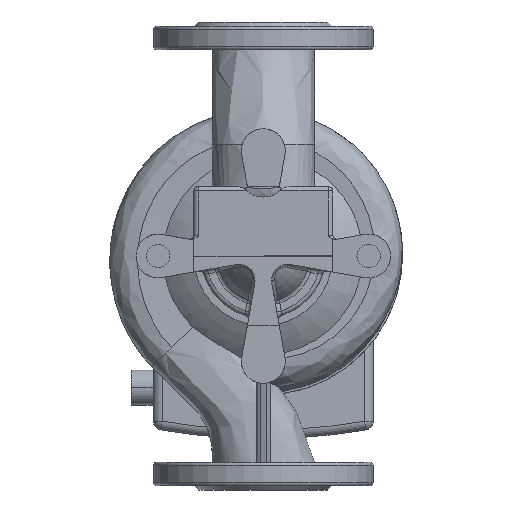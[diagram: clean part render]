
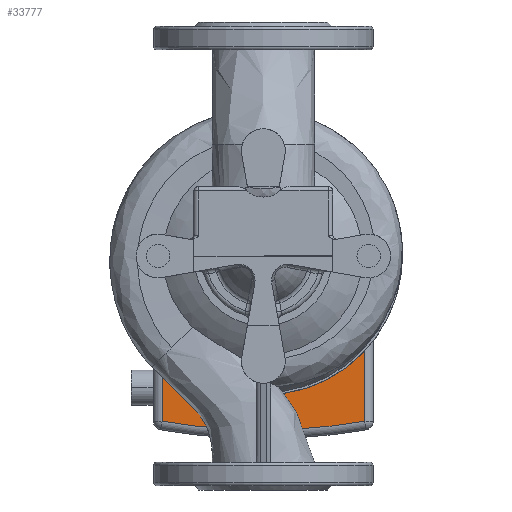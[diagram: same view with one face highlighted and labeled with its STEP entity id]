
A CAD part, front view. The second image highlights one B-rep face of the part: STEP entity #33777.
In plain terms, the highlighted planar face has unit normal (0, -1, 0).
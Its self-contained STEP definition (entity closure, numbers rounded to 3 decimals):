
#361 = CARTESIAN_POINT ( 'NONE',  ( 85.5, 214.5, -52. ) ) ;
#620 = ORIENTED_EDGE ( 'NONE', *, *, #27798, .T. ) ;
#782 = LINE ( 'NONE', #15295, #44662 ) ;
#816 = EDGE_LOOP ( 'NONE', ( #24184, #955, #620, #11289, #27377, #30276, #18420, #9835, #43520, #25439, #3528 ) ) ;
#955 = ORIENTED_EDGE ( 'NONE', *, *, #25124, .T. ) ;
#1324 = VECTOR ( 'NONE', #31143, 1000. ) ;
#1714 = CIRCLE ( 'NONE', #42700, 400. ) ;
#2285 = PLANE ( 'NONE',  #24954 ) ;
#2598 = VERTEX_POINT ( 'NONE', #23967 ) ;
#2620 = LINE ( 'NONE', #28291, #33976 ) ;
#3074 = VERTEX_POINT ( 'NONE', #8772 ) ;
#3528 = ORIENTED_EDGE ( 'NONE', *, *, #22225, .F. ) ;
#3677 = CARTESIAN_POINT ( 'NONE',  ( -77.504, 214.5, -50. ) ) ;
#4105 = CARTESIAN_POINT ( 'NONE',  ( 77.504, 214.5, -50. ) ) ;
#4153 = DIRECTION ( 'NONE',  ( 0., 0., 1. ) ) ;
#4270 = EDGE_CURVE ( 'NONE', #3074, #14382, #1714, .T. ) ;
#4921 = LINE ( 'NONE', #26960, #41597 ) ;
#4974 = LINE ( 'NONE', #44951, #1324 ) ;
#5158 = DIRECTION ( 'NONE',  ( 0., 1., 0. ) ) ;
#6393 = AXIS2_PLACEMENT_3D ( 'NONE', #12187, #5158, #41271 ) ;
#7096 = VERTEX_POINT ( 'NONE', #34162 ) ;
#7200 = CIRCLE ( 'NONE', #24212, 72.5 ) ;
#7623 = LINE ( 'NONE', #361, #34014 ) ;
#8772 = CARTESIAN_POINT ( 'NONE',  ( -69.25, 214.5, -112.96 ) ) ;
#8952 = DIRECTION ( 'NONE',  ( 0., 0., 1. ) ) ;
#9315 = CARTESIAN_POINT ( 'NONE',  ( -41.5, 214.5, -85.5 ) ) ;
#9835 = ORIENTED_EDGE ( 'NONE', *, *, #4270, .T. ) ;
#10563 = DIRECTION ( 'NONE',  ( 0., -1., 0. ) ) ;
#11289 = ORIENTED_EDGE ( 'NONE', *, *, #17924, .T. ) ;
#12187 = CARTESIAN_POINT ( 'NONE',  ( 85.5, 214.5, 0. ) ) ;
#12586 = DIRECTION ( 'NONE',  ( 0., -1., 0. ) ) ;
#12700 = DIRECTION ( 'NONE',  ( 0., -1., 0. ) ) ;
#14382 = VERTEX_POINT ( 'NONE', #19389 ) ;
#15295 = CARTESIAN_POINT ( 'NONE',  ( 85.5, 214.5, -50. ) ) ;
#15569 = VERTEX_POINT ( 'NONE', #37808 ) ;
#16874 = EDGE_CURVE ( 'NONE', #28082, #7096, #39981, .T. ) ;
#17359 = VERTEX_POINT ( 'NONE', #46214 ) ;
#17924 = EDGE_CURVE ( 'NONE', #17359, #26553, #782, .T. ) ;
#18420 = ORIENTED_EDGE ( 'NONE', *, *, #43855, .T. ) ;
#19178 = EDGE_CURVE ( 'NONE', #2598, #26553, #45829, .T. ) ;
#19389 = CARTESIAN_POINT ( 'NONE',  ( 0., 214.5, -119. ) ) ;
#19596 = VECTOR ( 'NONE', #23615, 1000. ) ;
#20236 = CARTESIAN_POINT ( 'NONE',  ( 69.25, 214.5, -112.96 ) ) ;
#20545 = CARTESIAN_POINT ( 'NONE',  ( -69.25, 214.5, -52. ) ) ;
#21639 = EDGE_CURVE ( 'NONE', #27244, #22788, #2620, .T. ) ;
#22225 = EDGE_CURVE ( 'NONE', #7096, #22788, #7623, .T. ) ;
#22788 = VERTEX_POINT ( 'NONE', #46879 ) ;
#23511 = DIRECTION ( 'NONE',  ( -1., 0., 0. ) ) ;
#23615 = DIRECTION ( 'NONE',  ( -1., 0., 0. ) ) ;
#23967 = CARTESIAN_POINT ( 'NONE',  ( -76.877, 214.5, -52. ) ) ;
#24184 = ORIENTED_EDGE ( 'NONE', *, *, #16874, .F. ) ;
#24212 = AXIS2_PLACEMENT_3D ( 'NONE', #42161, #46031, #23511 ) ;
#24954 = AXIS2_PLACEMENT_3D ( 'NONE', #9315, #12700, #28199 ) ;
#25124 = EDGE_CURVE ( 'NONE', #28082, #15569, #27503, .T. ) ;
#25330 = CARTESIAN_POINT ( 'NONE',  ( 0., 214.5, 281. ) ) ;
#25439 = ORIENTED_EDGE ( 'NONE', *, *, #21639, .T. ) ;
#26553 = VERTEX_POINT ( 'NONE', #3677 ) ;
#26960 = CARTESIAN_POINT ( 'NONE',  ( -69.25, 214.5, -85.5 ) ) ;
#27145 = AXIS2_PLACEMENT_3D ( 'NONE', #45765, #12586, #8952 ) ;
#27244 = VERTEX_POINT ( 'NONE', #20236 ) ;
#27377 = ORIENTED_EDGE ( 'NONE', *, *, #19178, .F. ) ;
#27503 = LINE ( 'NONE', #34761, #19596 ) ;
#27798 = EDGE_CURVE ( 'NONE', #15569, #17359, #7200, .T. ) ;
#28082 = VERTEX_POINT ( 'NONE', #4105 ) ;
#28199 = DIRECTION ( 'NONE',  ( 0., 0., 1. ) ) ;
#28291 = CARTESIAN_POINT ( 'NONE',  ( 69.25, 214.5, -85.5 ) ) ;
#29827 = CARTESIAN_POINT ( 'NONE',  ( -85.5, 214.5, 0. ) ) ;
#30088 = DIRECTION ( 'NONE',  ( -1., 0., 0. ) ) ;
#30276 = ORIENTED_EDGE ( 'NONE', *, *, #43408, .F. ) ;
#31143 = DIRECTION ( 'NONE',  ( -1., 0., 0. ) ) ;
#31604 = FACE_OUTER_BOUND ( 'NONE', #816, .T. ) ;
#32741 = VERTEX_POINT ( 'NONE', #20545 ) ;
#33777 = ADVANCED_FACE ( 'NONE', ( #31604 ), #2285, .T. ) ;
#33783 = DIRECTION ( 'NONE',  ( -1., 0., 0. ) ) ;
#33976 = VECTOR ( 'NONE', #43036, 1000. ) ;
#34014 = VECTOR ( 'NONE', #33783, 1000. ) ;
#34162 = CARTESIAN_POINT ( 'NONE',  ( 76.877, 214.5, -52. ) ) ;
#34167 = DIRECTION ( 'NONE',  ( 0., 1., 0. ) ) ;
#34761 = CARTESIAN_POINT ( 'NONE',  ( 85.5, 214.5, -50. ) ) ;
#36892 = AXIS2_PLACEMENT_3D ( 'NONE', #29827, #34167, #4153 ) ;
#37808 = CARTESIAN_POINT ( 'NONE',  ( 52.5, 214.5, -50. ) ) ;
#39981 = CIRCLE ( 'NONE', #36892, 170.5 ) ;
#40110 = DIRECTION ( 'NONE',  ( 0., 0., 1. ) ) ;
#41271 = DIRECTION ( 'NONE',  ( 0., 0., 1. ) ) ;
#41597 = VECTOR ( 'NONE', #41734, 1000. ) ;
#41734 = DIRECTION ( 'NONE',  ( 0., 0., -1. ) ) ;
#42161 = CARTESIAN_POINT ( 'NONE',  ( 0., 214.5, 0. ) ) ;
#42598 = CIRCLE ( 'NONE', #27145, 400. ) ;
#42700 = AXIS2_PLACEMENT_3D ( 'NONE', #25330, #10563, #40110 ) ;
#43036 = DIRECTION ( 'NONE',  ( 0., 0., 1. ) ) ;
#43408 = EDGE_CURVE ( 'NONE', #32741, #2598, #4974, .T. ) ;
#43520 = ORIENTED_EDGE ( 'NONE', *, *, #47368, .T. ) ;
#43855 = EDGE_CURVE ( 'NONE', #32741, #3074, #4921, .T. ) ;
#44662 = VECTOR ( 'NONE', #30088, 1000. ) ;
#44951 = CARTESIAN_POINT ( 'NONE',  ( 85.5, 214.5, -52. ) ) ;
#45765 = CARTESIAN_POINT ( 'NONE',  ( 0., 214.5, 281. ) ) ;
#45829 = CIRCLE ( 'NONE', #6393, 170.5 ) ;
#46031 = DIRECTION ( 'NONE',  ( 0., 1., 0. ) ) ;
#46214 = CARTESIAN_POINT ( 'NONE',  ( -52.5, 214.5, -50. ) ) ;
#46879 = CARTESIAN_POINT ( 'NONE',  ( 69.25, 214.5, -52. ) ) ;
#47368 = EDGE_CURVE ( 'NONE', #14382, #27244, #42598, .T. ) ;
